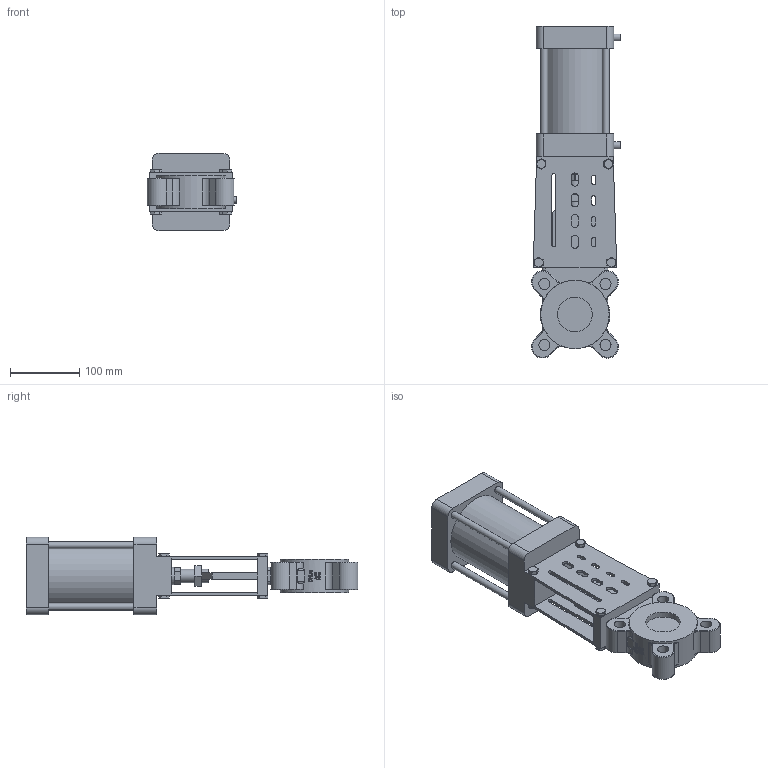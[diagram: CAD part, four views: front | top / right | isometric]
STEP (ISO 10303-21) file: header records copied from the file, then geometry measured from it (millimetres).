
FILE_DESCRIPTION(('STEP AP242'), '1');
FILE_NAME('GVKR1331M-1W-Fb-2P Çàäâèæêà øèáåðíàÿ ñ âûäâèæíûì øòîêîì DN.ru Äó50 Ðó16', '2026-05-25T19:30:49', ('R2D2'), (''), 'C3D Converter', 'C3D Toolkit', '');
FILE_SCHEMA(('AP242_MANAGED_MODEL_BASED_3D_ENGINEERING_MIM_LF { 1 0 10303 442 1 1 4 }'));
Length unit declared in the file: millimetre
Products named in the file (1): GVKR1331M-1W-Fb-2P
Bounding box: 128.96 x 479.96 x 112 mm (x, y, z)
Volume: 2738261.1 mm3; surface area: 269166.2 mm2
Topology: 1 solids, 1 shells, 663 faces, 1698 edges, 1084 vertices
Faces by surface type: plane 326, cylinder 133, extrusion 132, cone 48, torus 24
Full cylindrical faces by diameter (mm): 10 x6, 13 x8, 16 x8, 19.8 x2, 20 x1, 25 x1, 50 x2, 99 x1, 100 x1
Entity records: 35087 total; most frequent: CARTESIAN_POINT 14122, ORIENTED_EDGE 3334, DIRECTION 2867, EDGE_CURVE 1667, VERTEX_POINT 1084, AXIS2_PLACEMENT_3D 960, VECTOR 947, LINE 815
